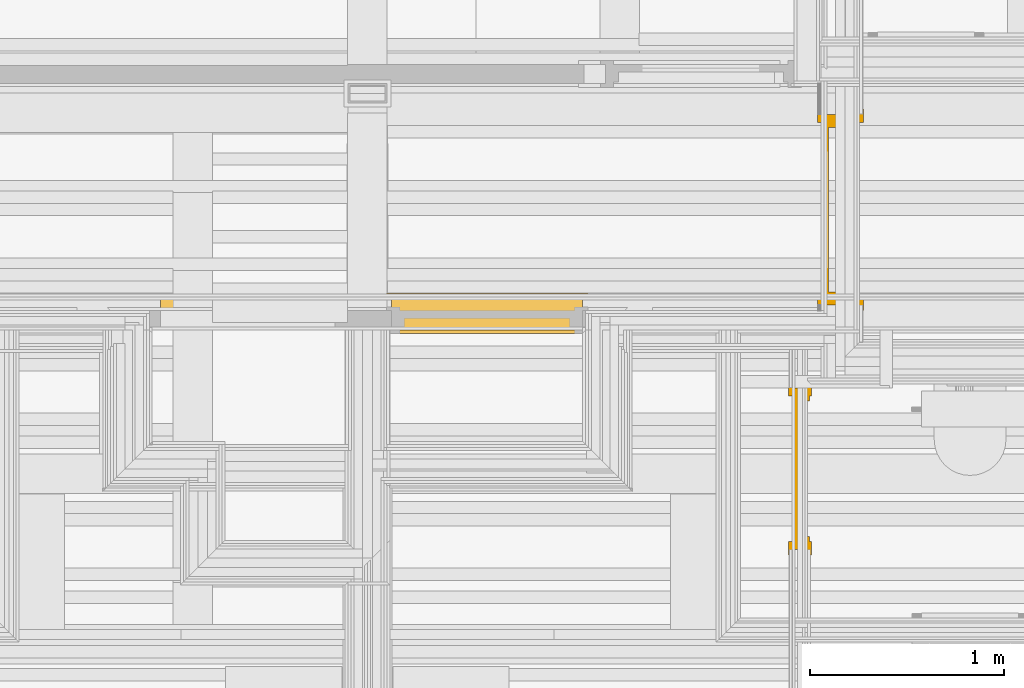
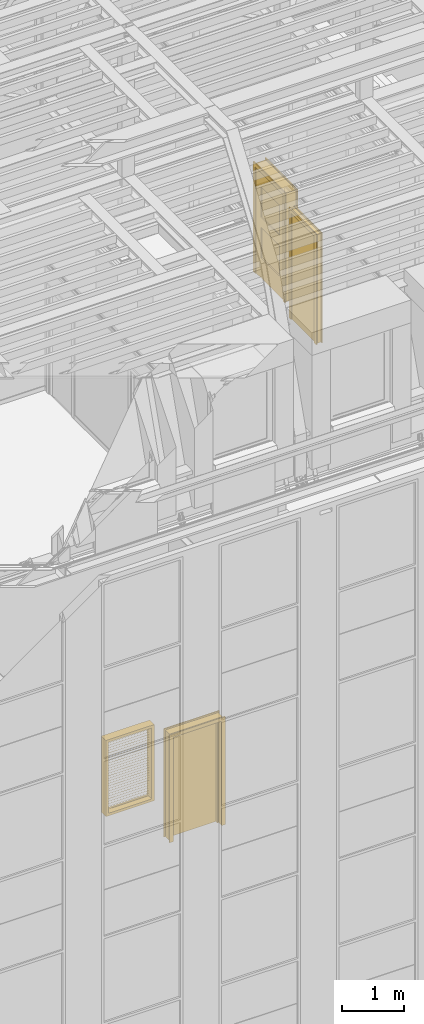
# One storey, part 121 of 183: 3 doors, 1 curtain wall.
"""IFC2X3 building model written with IfcOpenShell, lengths in metres."""

import ifcopenshell
import ifcopenshell.guid

model = None  # the IFC model being written
_history = None  # IfcOwnerHistory: only IFC2X3 demands one
_inside = {}  # id of a spatial element -> (the spatial element, [elements in it])
_under = {}  # id of a project, library or spatial element -> (it, [spatial elements below it])
_declared = {}  # id of a project -> (the project, [libraries it declares])
_typed = {}  # id of a type object -> (the type object, [elements of that type])
_made_of = {}  # id of a material, layer set ... -> (it, [elements and type objects made of it])


def new_model(schema):
    """Start an empty IFC model of exactly this schema.

    Asked for "IFC4X3", IfcOpenShell would pick the latest addendum, in which some entities
    have other attributes; the version numbers below select the first issue.
    IFC2X3 requires an IfcOwnerHistory on every rooted entity: one is made here for all.
    """
    global model, _history
    if schema == "IFC4X3":
        model = ifcopenshell.file(schema_version=(4, 3, 0, 0))
    else:
        model = ifcopenshell.file(schema=schema)
    _inside.clear()
    _under.clear()
    _declared.clear()
    _typed.clear()
    _made_of.clear()
    _history = None
    if model.schema == "IFC2X3":
        org = make("IfcOrganization", Name="unknown")
        user = make(
            "IfcPersonAndOrganization",
            ThePerson=make("IfcPerson", FamilyName="unknown"),
            TheOrganization=org,
        )
        app = make(
            "IfcApplication",
            ApplicationDeveloper=org,
            Version="unknown",
            ApplicationFullName="unknown",
            ApplicationIdentifier="unknown",
        )
        _history = make(
            "IfcOwnerHistory",
            OwningUser=user,
            OwningApplication=app,
            ChangeAction="ADDED",
            CreationDate=0,
        )
    return model


def make(cls, **values):
    """One entity of the class cls with the attributes given. An attribute that is None is left unset."""
    return model.create_entity(
        cls, **{name: value for name, value in values.items() if value is not None}
    )


def entity(cls, *values):
    """Any entity or typed value of the class cls, its attributes in the order of the schema. None: left unset."""
    e = model.create_entity(cls)
    for i, value in enumerate(values):
        if value is not None:
            e[i] = value
    return e


def rooted(cls, **values):
    """An entity with a GlobalId (a new one), such as an element, a storey or a relation."""
    return make(cls, GlobalId=ifcopenshell.guid.new(), OwnerHistory=_history, **values)


def si_unit(unit_type, name, prefix=None):
    """IfcSIUnit, for example si_unit("LENGTHUNIT", "METRE", prefix="MILLI")."""
    return make("IfcSIUnit", UnitType=unit_type, Prefix=prefix, Name=name)


def converted_unit(unit_type, name, factor, base, dimensions=None, offset=None):
    """IfcConversionBasedUnit, such as the inch: factor (a typed value) times the base unit."""
    return make(
        "IfcConversionBasedUnit"
        if offset is None
        else "IfcConversionBasedUnitWithOffset",
        ConversionOffset=offset,
        Dimensions=None
        if dimensions is None
        else entity("IfcDimensionalExponents", *dimensions),
        UnitType=unit_type,
        Name=name,
        ConversionFactor=make(
            "IfcMeasureWithUnit", ValueComponent=factor, UnitComponent=base
        ),
    )


def derived_unit(unit_type, elements):
    """IfcDerivedUnit: a product of units, each with its exponent."""
    return make(
        "IfcDerivedUnit",
        Elements=[
            make("IfcDerivedUnitElement", Unit=unit, Exponent=power)
            for unit, power in elements
        ],
        UnitType=unit_type,
    )


def money_unit(currency):
    """IfcMonetaryUnit."""
    return make("IfcMonetaryUnit", Currency=currency)


def assignment(units):
    """IfcUnitAssignment: the units of a project."""
    return None if units is None else make("IfcUnitAssignment", Units=units)


def point(xyz):
    """IfcCartesianPoint."""
    return None if xyz is None else make("IfcCartesianPoint", Coordinates=xyz)


def direction(xyz):
    """IfcDirection."""
    return None if xyz is None else make("IfcDirection", DirectionRatios=xyz)


def frame(location, z_axis=None, x_axis=None):
    """IfcAxis2Placement3D, a coordinate frame: its origin and axes. An axis left out is left unset."""
    return make(
        "IfcAxis2Placement3D",
        Location=point(location),
        Axis=direction(z_axis),
        RefDirection=direction(x_axis),
    )


def origin_with_axes():
    """The frame at (0, 0, 0) with the z axis (0, 0, 1) and the x axis (1, 0, 0) written out."""
    return frame((0.0, 0.0, 0.0), z_axis=(0.0, 0.0, 1.0), x_axis=(1.0, 0.0, 0.0))


def place(relative_to, where):
    """IfcLocalPlacement: puts the frame where relative to a parent placement (None: the world)."""
    return make(
        "IfcLocalPlacement", PlacementRelTo=relative_to, RelativePlacement=where
    )


def context(
    kind, dimensions, precision=None, world=None, true_north=None, identifier=None
):
    """IfcGeometricRepresentationContext, for example the 3D "Model" context."""
    return make(
        "IfcGeometricRepresentationContext",
        ContextIdentifier=identifier,
        ContextType=kind,
        CoordinateSpaceDimension=dimensions,
        Precision=precision,
        WorldCoordinateSystem=world,
        TrueNorth=true_north,
    )


def subcontext(parent, identifier, kind, view, scale=None):
    """IfcGeometricRepresentationSubContext, for example "Body" below "Model"."""
    return make(
        "IfcGeometricRepresentationSubContext",
        ContextIdentifier=identifier,
        ContextType=kind,
        ParentContext=parent,
        TargetScale=scale,
        TargetView=view,
    )


def project(units=None, contexts=None):
    """IfcProject with its units and contexts."""
    return rooted(
        "IfcProject",
        Name="project",
        RepresentationContexts=contexts,
        UnitsInContext=assignment(units),
    )


def spatial(cls, under=None, at=None, **own):
    """A site, building, storey or space (cls), placed at a placement, below another one or the project."""
    s = rooted(cls, ObjectPlacement=at, **own)
    if under is not None:
        _under.setdefault(under.id(), (under, []))[1].append(s)
    return s


def faces_of(points, faces, orient=None, outer=None):
    """IfcFace entities. A face is a list of loops; a loop is a list of indices into points, from 0.

    orient and outer hold one flag for each loop. By default every Orientation is true, the
    first loop of a face is its IfcFaceOuterBound and the others are IfcFaceBound.
    """
    made = []
    for i, loops in enumerate(faces):
        bounds = []
        for j, loop in enumerate(loops):
            is_outer = j == 0 if outer is None else outer[i][j]
            bounds.append(
                make(
                    "IfcFaceOuterBound" if is_outer else "IfcFaceBound",
                    Bound=make("IfcPolyLoop", Polygon=[points[k] for k in loop]),
                    Orientation=True if orient is None else orient[i][j],
                )
            )
        made.append(make("IfcFace", Bounds=bounds))
    return made


def open_shell(faces, orient=None, outer=None):
    """The faces of one IfcOpenShell. surface_model builds it on its shared points."""
    return ("IfcOpenShell", faces, orient, outer)


def faceted_brep(points, faces, orient=None, outer=None, voids=None):
    """IfcFacetedBrep: a solid bounded by flat faces; with voids (closed shells), ...WithVoids."""
    shared = [point(p) for p in points]
    hull = make("IfcClosedShell", CfsFaces=faces_of(shared, faces, orient, outer))
    if voids is None:
        return make("IfcFacetedBrep", Outer=hull)
    return make(
        "IfcFacetedBrepWithVoids",
        Outer=hull,
        Voids=[
            make(cls, CfsFaces=faces_of(shared, fs, o, b)) for cls, fs, o, b in voids
        ],
    )


def surface_model(cls, points, shells):
    """IfcFaceBasedSurfaceModel or IfcShellBasedSurfaceModel (cls): surfaces that need not close."""
    shared = [point(p) for p in points]
    made = [make(c, CfsFaces=faces_of(shared, fs, o, b)) for c, fs, o, b in shells]
    if cls == "IfcFaceBasedSurfaceModel":
        return make(cls, FbsmFaces=made)
    return make(cls, SbsmBoundary=made)


def shape(context_of_items, identifier, shape_type, items):
    """IfcShapeRepresentation: the items that make up one representation, for example the "Body"."""
    return make(
        "IfcShapeRepresentation",
        ContextOfItems=context_of_items,
        RepresentationIdentifier=identifier,
        RepresentationType=shape_type,
        Items=items,
    )


def material(Name=None, Category=None):
    """IfcMaterial."""
    return make("IfcMaterial", Name=Name, Category=Category)


def made_of(thing, what):
    """Note that an element or type object is made of a material, layer set ...; save() writes the relation."""
    if what is not None:
        _made_of.setdefault(what.id(), (what, []))[1].append(thing)
    return thing


def type_object(cls, material=None, **own):
    """A type object (cls), such as IfcWallType, which elements share."""
    return made_of(rooted(cls, **own), material)


def element(
    cls,
    number,
    at=None,
    inside=None,
    cuts=None,
    type_object=None,
    material=None,
    context=None,
    identifier="Body",
    shape_type=None,
    held_by="IfcProductDefinitionShape",
    body=None,
    shapes=None,
    **own,
):
    """One element of the class cls, such as IfcWall. Its Tag is "e" and its number.

    at: its placement. inside: the storey or other place that contains it. cuts: it is an
    opening in that element (IfcRelVoidsElement). A single representation is given by context,
    identifier, shape_type and body (its items); several are given by shapes. held_by: the class
    of the entity that holds the representations. save() writes the other relations.
    """
    e = rooted(cls, Tag="e%d" % number, ObjectPlacement=at, **own)
    if body is not None:
        shapes = [shape(context, identifier, shape_type, body)]
    if shapes is not None:
        e.Representation = make(held_by, Representations=shapes)
    if inside is not None:
        _inside.setdefault(inside.id(), (inside, []))[1].append(e)
    if cuts is not None:
        rooted(
            "IfcRelVoidsElement", RelatingBuildingElement=cuts, RelatedOpeningElement=e
        )
    if type_object is not None:
        _typed.setdefault(type_object.id(), (type_object, []))[1].append(e)
    return made_of(e, material)


def aggregate(whole, parts):
    """IfcRelAggregates: a whole, such as a stair, and the parts it consists of."""
    return rooted("IfcRelAggregates", RelatingObject=whole, RelatedObjects=parts)


def save(model, path):
    """Write the relations noted so far, then the file.

    IfcRelAggregates (storeys below a building ...), IfcRelContainedInSpatialStructure (elements
    in a storey), IfcRelDefinesByType, IfcRelAssociatesMaterial and IfcRelDeclares: one each for
    every whole, place, type object, material and project.
    """
    for whole, parts in _under.values():
        aggregate(whole, parts)
    for where, things in _inside.values():
        rooted(
            "IfcRelContainedInSpatialStructure",
            RelatedElements=things,
            RelatingStructure=where,
        )
    for kind, things in _typed.values():
        rooted("IfcRelDefinesByType", RelatedObjects=things, RelatingType=kind)
    for what, things in _made_of.values():
        rooted("IfcRelAssociatesMaterial", RelatedObjects=things, RelatingMaterial=what)
    for by, libraries in _declared.values():
        rooted("IfcRelDeclares", RelatingContext=by, RelatedDefinitions=libraries)
    model.write(path)


model = new_model("IFC2X3")

# Units and contexts
model_context = context("Model", 3, precision=1e-05, world=origin_with_axes(), true_north=direction((0.0, 1.0)))
body_context = subcontext(model_context, "Body", "Model", "MODEL_VIEW", scale=1.0)
ifc_project = project(units=[si_unit("LENGTHUNIT", "METRE"), si_unit("AREAUNIT", "SQUARE_METRE"), si_unit("VOLUMEUNIT", "CUBIC_METRE"), si_unit("ABSORBEDDOSEUNIT", "GRAY"), si_unit("AMOUNTOFSUBSTANCEUNIT", "MOLE"), si_unit("DOSEEQUIVALENTUNIT", "SIEVERT"), si_unit("ELECTRICCAPACITANCEUNIT", "FARAD"), si_unit("ELECTRICCHARGEUNIT", "COULOMB"), si_unit("ELECTRICCONDUCTANCEUNIT", "SIEMENS"), si_unit("ELECTRICCURRENTUNIT", "AMPERE"), si_unit("ELECTRICRESISTANCEUNIT", "OHM"), si_unit("ELECTRICVOLTAGEUNIT", "VOLT"), si_unit("ENERGYUNIT", "JOULE"), si_unit("FORCEUNIT", "NEWTON"), si_unit("FREQUENCYUNIT", "HERTZ"), si_unit("ILLUMINANCEUNIT", "LUX"), si_unit("INDUCTANCEUNIT", "HENRY"), si_unit("LUMINOUSFLUXUNIT", "LUMEN"), si_unit("LUMINOUSINTENSITYUNIT", "CANDELA"), si_unit("MAGNETICFLUXDENSITYUNIT", "TESLA"), si_unit("MAGNETICFLUXUNIT", "WEBER"), si_unit("MASSUNIT", "GRAM"), converted_unit("PLANEANGLEUNIT", "degree", entity("IfcReal", 0.0174532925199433), si_unit("PLANEANGLEUNIT", "RADIAN"), dimensions=[0, 0, 0, 0, 0, 0, 0]), si_unit("POWERUNIT", "WATT"), si_unit("PRESSUREUNIT", "PASCAL"), si_unit("RADIOACTIVITYUNIT", "BECQUEREL"), si_unit("SOLIDANGLEUNIT", "STERADIAN"), si_unit("THERMODYNAMICTEMPERATUREUNIT", "KELVIN"), si_unit("TIMEUNIT", "SECOND"), derived_unit("ACCELERATIONUNIT", [(si_unit("LENGTHUNIT", "METRE"), 1), (si_unit("TIMEUNIT", "SECOND"), -2)]), derived_unit("ANGULARVELOCITYUNIT", [(converted_unit("PLANEANGLEUNIT", "degree", entity("IfcReal", 0.0174532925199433), si_unit("PLANEANGLEUNIT", "RADIAN"), dimensions=[0, 0, 0, 0, 0, 0, 0]), 1), (si_unit("TIMEUNIT", "SECOND"), -1)]), derived_unit("CURVATUREUNIT", [(converted_unit("PLANEANGLEUNIT", "degree", entity("IfcReal", 0.0174532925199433), si_unit("PLANEANGLEUNIT", "RADIAN"), dimensions=[0, 0, 0, 0, 0, 0, 0]), 1), (si_unit("LENGTHUNIT", "METRE"), -1)]), derived_unit("DYNAMICVISCOSITYUNIT", [(si_unit("PRESSUREUNIT", "PASCAL"), 1), (si_unit("TIMEUNIT", "SECOND"), 1)]), derived_unit("HEATFLUXDENSITYUNIT", [(si_unit("POWERUNIT", "WATT"), 1), (si_unit("LENGTHUNIT", "METRE"), -2)]), derived_unit("HEATINGVALUEUNIT", [(si_unit("ENERGYUNIT", "JOULE"), 1), (si_unit("MASSUNIT", "GRAM"), -1)]), derived_unit("INTEGERCOUNTRATEUNIT", [(si_unit("TIMEUNIT", "SECOND"), -1)]), derived_unit("IONCONCENTRATIONUNIT", [(si_unit("MASSUNIT", "GRAM"), 1), (si_unit("VOLUMEUNIT", "CUBIC_METRE"), -1)]), derived_unit("ISOTHERMALMOISTURECAPACITYUNIT", [(si_unit("VOLUMEUNIT", "CUBIC_METRE"), 1), (si_unit("MASSUNIT", "GRAM"), -1)]), derived_unit("KINEMATICVISCOSITYUNIT", [(si_unit("AREAUNIT", "SQUARE_METRE"), 1), (si_unit("TIMEUNIT", "SECOND"), -1)]), derived_unit("LINEARFORCEUNIT", [(si_unit("FORCEUNIT", "NEWTON"), 1), (si_unit("LENGTHUNIT", "METRE"), -1)]), derived_unit("LINEARMOMENTUNIT", [(si_unit("FORCEUNIT", "NEWTON"), 1), (si_unit("LENGTHUNIT", "METRE"), -1)]), derived_unit("LINEARSTIFFNESSUNIT", [(si_unit("FORCEUNIT", "NEWTON"), 1), (si_unit("LENGTHUNIT", "METRE"), -1)]), derived_unit("LINEARVELOCITYUNIT", [(si_unit("LENGTHUNIT", "METRE"), 1), (si_unit("TIMEUNIT", "SECOND"), -1)]), derived_unit("LUMINOUSINTENSITYDISTRIBUTIONUNIT", [(si_unit("LUMINOUSINTENSITYUNIT", "CANDELA"), 1), (si_unit("LUMINOUSFLUXUNIT", "LUMEN"), -1)]), derived_unit("MASSDENSITYUNIT", [(si_unit("MASSUNIT", "GRAM"), 1), (si_unit("VOLUMEUNIT", "CUBIC_METRE"), -1)]), derived_unit("MASSFLOWRATEUNIT", [(si_unit("MASSUNIT", "GRAM"), 1), (si_unit("TIMEUNIT", "SECOND"), -1)]), derived_unit("MASSPERLENGTHUNIT", [(si_unit("MASSUNIT", "GRAM"), 1), (si_unit("LENGTHUNIT", "METRE"), -1)]), derived_unit("MODULUSOFELASTICITYUNIT", [(si_unit("FORCEUNIT", "NEWTON"), 1), (si_unit("AREAUNIT", "SQUARE_METRE"), -1)]), derived_unit("MODULUSOFLINEARSUBGRADEREACTIONUNIT", [(si_unit("FORCEUNIT", "NEWTON"), 1), (si_unit("LENGTHUNIT", "METRE"), -2)]), derived_unit("MODULUSOFROTATIONALSUBGRADEREACTIONUNIT", [(si_unit("FORCEUNIT", "NEWTON"), 1), (si_unit("LENGTHUNIT", "METRE"), 1)]), derived_unit("MODULUSOFSUBGRADEREACTIONUNIT", [(si_unit("FORCEUNIT", "NEWTON"), 1), (si_unit("VOLUMEUNIT", "CUBIC_METRE"), -1)]), derived_unit("MOISTUREDIFFUSIVITYUNIT", [(si_unit("VOLUMEUNIT", "CUBIC_METRE"), 1), (si_unit("TIMEUNIT", "SECOND"), -1)]), derived_unit("MOLECULARWEIGHTUNIT", [(si_unit("MASSUNIT", "GRAM"), 1), (si_unit("AMOUNTOFSUBSTANCEUNIT", "MOLE"), -1)]), derived_unit("PLANARFORCEUNIT", [(si_unit("FORCEUNIT", "NEWTON"), 1), (si_unit("LENGTHUNIT", "METRE"), -2)]), derived_unit("ROTATIONALFREQUENCYUNIT", [(si_unit("TIMEUNIT", "SECOND"), -1)]), derived_unit("ROTATIONALMASSUNIT", [(si_unit("MASSUNIT", "GRAM"), 1), (si_unit("LENGTHUNIT", "METRE"), 2)]), derived_unit("ROTATIONALSTIFFNESSUNIT", [(si_unit("FORCEUNIT", "NEWTON"), 1), (si_unit("LENGTHUNIT", "METRE"), 1), (converted_unit("PLANEANGLEUNIT", "degree", entity("IfcReal", 0.0174532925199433), si_unit("PLANEANGLEUNIT", "RADIAN"), dimensions=[0, 0, 0, 0, 0, 0, 0]), -1)]), derived_unit("SECTIONAREAINTEGRALUNIT", [(si_unit("LENGTHUNIT", "METRE"), 5)]), derived_unit("SECTIONMODULUSUNIT", [(si_unit("LENGTHUNIT", "METRE"), 3)]), derived_unit("SHEARMODULUSUNIT", [(si_unit("FORCEUNIT", "NEWTON"), 1), (si_unit("AREAUNIT", "SQUARE_METRE"), -1)]), derived_unit("SOUNDPOWERUNIT", [(si_unit("ENERGYUNIT", "JOULE"), 1), (si_unit("TIMEUNIT", "SECOND"), -1)]), derived_unit("SPECIFICHEATCAPACITYUNIT", [(si_unit("FORCEUNIT", "NEWTON"), 1), (si_unit("MASSUNIT", "GRAM"), -1), (si_unit("THERMODYNAMICTEMPERATUREUNIT", "KELVIN"), -1)]), derived_unit("TEMPERATUREGRADIENTUNIT", [(si_unit("THERMODYNAMICTEMPERATUREUNIT", "KELVIN"), 1), (si_unit("LENGTHUNIT", "METRE"), -1)]), derived_unit("THERMALADMITTANCEUNIT", [(si_unit("POWERUNIT", "WATT"), 1), (si_unit("AREAUNIT", "SQUARE_METRE"), -1), (si_unit("THERMODYNAMICTEMPERATUREUNIT", "KELVIN"), -1)]), derived_unit("THERMALCONDUCTANCEUNIT", [(si_unit("POWERUNIT", "WATT"), 1), (si_unit("LENGTHUNIT", "METRE"), -1), (si_unit("THERMODYNAMICTEMPERATUREUNIT", "KELVIN"), -1)]), derived_unit("THERMALEXPANSIONCOEFFICIENTUNIT", [(si_unit("THERMODYNAMICTEMPERATUREUNIT", "KELVIN"), -1)]), derived_unit("THERMALRESISTANCEUNIT", [(si_unit("AREAUNIT", "SQUARE_METRE"), 1), (si_unit("POWERUNIT", "WATT"), -1)]), derived_unit("THERMALTRANSMITTANCEUNIT", [(si_unit("POWERUNIT", "WATT"), 1), (si_unit("AREAUNIT", "SQUARE_METRE"), -1), (si_unit("THERMODYNAMICTEMPERATUREUNIT", "KELVIN"), -1)]), derived_unit("TORQUEUNIT", [(si_unit("FORCEUNIT", "NEWTON"), 1), (si_unit("LENGTHUNIT", "METRE"), 1)]), derived_unit("VAPORPERMEABILITYUNIT", [(si_unit("MASSUNIT", "GRAM"), 1), (si_unit("TIMEUNIT", "SECOND"), -1)]), derived_unit("VOLUMETRICFLOWRATEUNIT", [(si_unit("VOLUMEUNIT", "CUBIC_METRE"), 1), (si_unit("TIMEUNIT", "SECOND"), -1)]), derived_unit("WARPINGCONSTANTUNIT", [(si_unit("LENGTHUNIT", "METRE"), 6)]), derived_unit("WARPINGMOMENTUNIT", [(si_unit("FORCEUNIT", "NEWTON"), 1), (si_unit("LENGTHUNIT", "METRE"), 2)]), money_unit("GBP")], contexts=[model_context])

# Site, building, storey
site_placement = place(None, origin_with_axes())
site = spatial("IfcSite", under=ifc_project, at=site_placement, Name="Site", CompositionType="ELEMENT")
building_placement = place(site_placement, origin_with_axes())
building = spatial("IfcBuilding", under=site, at=building_placement, Name="Building01", CompositionType="ELEMENT")
storey_placement = place(building_placement, frame((0.0, 0.0, 5.15), z_axis=(0.0, 0.0, 1.0), x_axis=(1.0, 0.0, 0.0)))
storey = spatial("IfcBuildingStorey", under=building, at=storey_placement, Name="1F", CompositionType="ELEMENT", Elevation=5.15)

# Curtain wall
ifc_material_1 = material(Name="A-CurtainWall_Frame")
curtain_wall_type = type_object("IfcCurtainWallType", Name="Generic - Maximum Spacing", PredefinedType="NOTDEFINED")
curtain_wall_placement = place(storey_placement, frame((0.0, 0.0, -5.15), z_axis=(0.0, 0.0, 1.0), x_axis=(1.0, 0.0, 0.0)))
element("IfcCurtainWall", 1, at=curtain_wall_placement, inside=storey, type_object=curtain_wall_type, material=ifc_material_1, Name="Generic - Maximum Spacing", ObjectType="Generic - Maximum Spacing", context=body_context, shape_type="SurfaceModel", body=[
    surface_model("IfcShellBasedSurfaceModel", [(12.483, 5.12953, 6.083684), (12.483, 5.131392, 6.086216), (12.483, 5.09047, 6.116316), (12.483, 5.088608, 6.113784), (13.283, 5.12953, 6.083684), (13.283, 5.088608, 6.113784), (13.283, 5.09047, 6.116316), (13.283, 5.131392, 6.086216), (12.483, 5.131392, 6.136216), (12.483, 5.09047, 6.166316), (12.483, 5.088608, 6.163784), (12.483, 5.12953, 6.133684), (13.283, 5.12953, 6.133684), (13.283, 5.088608, 6.163784), (13.283, 5.09047, 6.166316), (13.283, 5.131392, 6.136216), (12.483, 5.131392, 6.186216), (12.483, 5.09047, 6.216316), (12.483, 5.088608, 6.213784), (12.483, 5.12953, 6.183684), (13.283, 5.12953, 6.183684), (13.283, 5.088608, 6.213784), (13.283, 5.09047, 6.216316), (13.283, 5.131392, 6.186216), (12.483, 5.131392, 6.236216), (12.483, 5.09047, 6.266316), (12.483, 5.088608, 6.263784), (12.483, 5.12953, 6.233684), (13.283, 5.12953, 6.233684), (13.283, 5.088608, 6.263784), (13.283, 5.09047, 6.266316), (13.283, 5.131392, 6.236216), (12.483, 5.131392, 6.286216), (12.483, 5.09047, 6.316316), (12.483, 5.088608, 6.313784), (12.483, 5.12953, 6.283684), (13.283, 5.12953, 6.283684), (13.283, 5.088608, 6.313784), (13.283, 5.09047, 6.316316), (13.283, 5.131392, 6.286216), (12.483, 5.131392, 6.336216), (12.483, 5.09047, 6.366316), (12.483, 5.088608, 6.363784), (12.483, 5.12953, 6.333684), (13.283, 5.12953, 6.333684), (13.283, 5.088608, 6.363784), (13.283, 5.09047, 6.366316), (13.283, 5.131392, 6.336216), (12.483, 5.131392, 6.386216), (12.483, 5.09047, 6.416316), (12.483, 5.088608, 6.413784), (12.483, 5.12953, 6.383684), (13.283, 5.12953, 6.383684), (13.283, 5.088608, 6.413784), (13.283, 5.09047, 6.416316), (13.283, 5.131392, 6.386216), (12.483, 5.131392, 6.436216), (12.483, 5.09047, 6.466316), (12.483, 5.088608, 6.463784), (12.483, 5.12953, 6.433684), (13.283, 5.12953, 6.433684), (13.283, 5.088608, 6.463784), (13.283, 5.09047, 6.466316), (13.283, 5.131392, 6.436216), (12.483, 5.131392, 6.486216), (12.483, 5.09047, 6.516316), (12.483, 5.088608, 6.513784), (12.483, 5.12953, 6.483684), (13.283, 5.12953, 6.483684), (13.283, 5.088608, 6.513784), (13.283, 5.09047, 6.516316), (13.283, 5.131392, 6.486216), (12.483, 5.131392, 6.536216), (12.483, 5.09047, 6.566316), (12.483, 5.088608, 6.563784), (12.483, 5.12953, 6.533684), (13.283, 5.12953, 6.533684), (13.283, 5.088608, 6.563784), (13.283, 5.09047, 6.566316), (13.283, 5.131392, 6.536216), (12.483, 5.131392, 6.586216), (12.483, 5.09047, 6.616316), (12.483, 5.088608, 6.613784), (12.483, 5.12953, 6.583684), (13.283, 5.12953, 6.583684), (13.283, 5.088608, 6.613784), (13.283, 5.09047, 6.616316), (13.283, 5.131392, 6.586216), (12.483, 5.131392, 6.636216), (12.483, 5.09047, 6.666316), (12.483, 5.088608, 6.663784), (12.483, 5.12953, 6.633684), (13.283, 5.12953, 6.633684), (13.283, 5.088608, 6.663784), (13.283, 5.09047, 6.666316), (13.283, 5.131392, 6.636216), (12.483, 5.131392, 6.686216), (12.483, 5.09047, 6.716316), (12.483, 5.088608, 6.713784), (12.483, 5.12953, 6.683684), (13.283, 5.12953, 6.683684), (13.283, 5.088608, 6.713784), (13.283, 5.09047, 6.716316), (13.283, 5.131392, 6.686216), (12.483, 5.131392, 6.736216), (12.483, 5.09047, 6.766316), (12.483, 5.088608, 6.763784), (12.483, 5.12953, 6.733684), (13.283, 5.12953, 6.733684), (13.283, 5.088608, 6.763784), (13.283, 5.09047, 6.766316), (13.283, 5.131392, 6.736216), (12.483, 5.131392, 6.786216), (12.483, 5.09047, 6.816316), (12.483, 5.088608, 6.813784), (12.483, 5.12953, 6.783684), (13.283, 5.12953, 6.783684), (13.283, 5.088608, 6.813784), (13.283, 5.09047, 6.816316), (13.283, 5.131392, 6.786216), (12.483, 5.131392, 6.836216), (12.483, 5.09047, 6.866316), (12.483, 5.088608, 6.863784), (12.483, 5.12953, 6.833684), (13.283, 5.12953, 6.833684), (13.283, 5.088608, 6.863784), (13.283, 5.09047, 6.866316), (13.283, 5.131392, 6.836216), (12.483, 5.131392, 6.886216), (12.483, 5.09047, 6.916316), (12.483, 5.088608, 6.913784), (12.483, 5.12953, 6.883684), (13.283, 5.12953, 6.883684), (13.283, 5.088608, 6.913784), (13.283, 5.09047, 6.916316), (13.283, 5.131392, 6.886216), (12.483, 5.131392, 6.936216), (12.483, 5.09047, 6.966316), (12.483, 5.088608, 6.963784), (12.483, 5.12953, 6.933684), (13.283, 5.12953, 6.933684), (13.283, 5.088608, 6.963784), (13.283, 5.09047, 6.966316), (13.283, 5.131392, 6.936216), (12.483, 5.131392, 6.986216), (12.483, 5.09047, 7.016316), (12.483, 5.088608, 7.013784), (12.483, 5.12953, 6.983684), (13.283, 5.12953, 6.983684), (13.283, 5.088608, 7.013784), (13.283, 5.09047, 7.016316), (13.283, 5.131392, 6.986216), (12.483, 5.131392, 7.036216), (12.483, 5.09047, 7.066316), (12.483, 5.088608, 7.063784), (12.483, 5.12953, 7.033684), (13.283, 5.12953, 7.033684), (13.283, 5.088608, 7.063784), (13.283, 5.09047, 7.066316), (13.283, 5.131392, 7.036216), (12.483, 5.131392, 7.086216), (12.483, 5.09047, 7.116316), (12.483, 5.088608, 7.113784), (12.483, 5.12953, 7.083684), (13.283, 5.12953, 7.083684), (13.283, 5.088608, 7.113784), (13.283, 5.09047, 7.116316), (13.283, 5.131392, 7.086216), (12.483, 5.131392, 7.136216), (12.483, 5.09047, 7.166316), (12.483, 5.088608, 7.163784), (12.483, 5.12953, 7.133684), (13.283, 5.12953, 7.133684), (13.283, 5.088608, 7.163784), (13.283, 5.09047, 7.166316), (13.283, 5.131392, 7.136216), (12.483, 5.131392, 7.186216), (12.483, 5.09047, 7.216316), (12.483, 5.088608, 7.213784), (12.483, 5.12953, 7.183684), (13.283, 5.12953, 7.183684), (13.283, 5.088608, 7.213784), (13.283, 5.09047, 7.216316), (13.283, 5.131392, 7.186216), (12.483, 5.131392, 7.236216), (12.483, 5.09047, 7.266316), (12.483, 5.088608, 7.263784), (12.483, 5.12953, 7.233684), (13.283, 5.12953, 7.233684), (13.283, 5.088608, 7.263784), (13.283, 5.09047, 7.266316), (13.283, 5.131392, 7.236216), (12.483, 5.131392, 7.286216), (12.483, 5.09047, 7.316316), (12.483, 5.088608, 7.313784), (12.483, 5.12953, 7.283684), (13.283, 5.12953, 7.283684), (13.283, 5.088608, 7.313784), (13.283, 5.09047, 7.316316), (13.283, 5.131392, 7.286216), (12.483, 5.131392, 7.336216), (12.483, 5.09047, 7.366316), (12.483, 5.088608, 7.363784), (12.483, 5.12953, 7.333684), (13.283, 5.12953, 7.333684), (13.283, 5.088608, 7.363784), (13.283, 5.09047, 7.366316), (13.283, 5.131392, 7.336216), (12.483, 5.131392, 7.386216), (12.483, 5.09047, 7.416316), (12.483, 5.088608, 7.413784), (12.483, 5.12953, 7.383684), (13.283, 5.12953, 7.383684), (13.283, 5.088608, 7.413784), (13.283, 5.09047, 7.416316), (13.283, 5.131392, 7.386216), (12.483, 5.131392, 7.436216), (12.483, 5.09047, 7.466316), (12.483, 5.088608, 7.463784), (12.483, 5.12953, 7.433684), (13.283, 5.12953, 7.433684), (13.283, 5.088608, 7.463784), (13.283, 5.09047, 7.466316), (13.283, 5.131392, 7.436216), (13.283, 5.15, 6.1), (13.283, 5.0, 6.1), (13.283, 5.0, 6.05), (13.283, 5.15, 6.05), (12.483, 5.15, 6.05), (12.483, 5.15, 6.1), (12.483, 5.0, 6.1), (12.483, 5.0, 6.05), (13.333, 5.0, 7.55), (13.333, 5.15, 7.55), (13.283, 5.15, 7.55), (13.283, 5.0, 7.55), (13.333, 5.0, 6.05), (13.333, 5.15, 6.05), (12.483, 5.0, 7.55), (12.483, 5.15, 7.55), (12.483, 5.15, 7.5), (12.483, 5.0, 7.5), (13.283, 5.0, 7.5), (13.283, 5.15, 7.5), (12.433, 5.0, 6.05), (12.433, 5.15, 6.05), (12.433, 5.0, 7.55), (12.433, 5.15, 7.55)], [open_shell([[[0, 1, 2, 3]], [[1, 2, 3, 0]], [[4, 5, 6, 7]], [[1, 0, 4, 7]], [[2, 1, 7, 6]], [[3, 2, 6, 5]], [[4, 0, 3, 5]], [[8, 9, 10, 11]], [[12, 13, 14, 15]], [[8, 11, 12, 15]], [[9, 8, 15, 14]], [[10, 9, 14, 13]], [[12, 11, 10, 13]], [[16, 17, 18, 19]], [[20, 21, 22, 23]], [[16, 19, 20, 23]], [[17, 16, 23, 22]], [[18, 17, 22, 21]], [[20, 19, 18, 21]], [[24, 25, 26, 27]], [[28, 29, 30, 31]], [[24, 27, 28, 31]], [[25, 24, 31, 30]], [[26, 25, 30, 29]], [[28, 27, 26, 29]], [[32, 33, 34, 35]], [[36, 37, 38, 39]], [[32, 35, 36, 39]], [[33, 32, 39, 38]], [[34, 33, 38, 37]], [[36, 35, 34, 37]], [[40, 41, 42, 43]], [[44, 45, 46, 47]], [[40, 43, 44, 47]], [[41, 40, 47, 46]], [[42, 41, 46, 45]], [[44, 43, 42, 45]], [[48, 49, 50, 51]], [[52, 53, 54, 55]], [[48, 51, 52, 55]], [[49, 48, 55, 54]], [[50, 49, 54, 53]], [[52, 51, 50, 53]], [[56, 57, 58, 59]], [[60, 61, 62, 63]], [[56, 59, 60, 63]], [[57, 56, 63, 62]], [[58, 57, 62, 61]], [[60, 59, 58, 61]], [[64, 65, 66, 67]], [[68, 69, 70, 71]], [[64, 67, 68, 71]], [[65, 64, 71, 70]], [[66, 65, 70, 69]], [[68, 67, 66, 69]], [[72, 73, 74, 75]], [[76, 77, 78, 79]], [[72, 75, 76, 79]], [[73, 72, 79, 78]], [[74, 73, 78, 77]], [[76, 75, 74, 77]], [[80, 81, 82, 83]], [[84, 85, 86, 87]], [[80, 83, 84, 87]], [[81, 80, 87, 86]], [[82, 81, 86, 85]], [[84, 83, 82, 85]], [[88, 89, 90, 91]], [[92, 93, 94, 95]], [[88, 91, 92, 95]], [[89, 88, 95, 94]], [[90, 89, 94, 93]], [[92, 91, 90, 93]], [[96, 97, 98, 99]], [[100, 101, 102, 103]], [[96, 99, 100, 103]], [[97, 96, 103, 102]], [[98, 97, 102, 101]], [[100, 99, 98, 101]], [[104, 105, 106, 107]], [[108, 109, 110, 111]], [[104, 107, 108, 111]], [[105, 104, 111, 110]], [[106, 105, 110, 109]], [[108, 107, 106, 109]], [[112, 113, 114, 115]], [[116, 117, 118, 119]], [[112, 115, 116, 119]], [[113, 112, 119, 118]], [[114, 113, 118, 117]], [[116, 115, 114, 117]], [[120, 121, 122, 123]], [[124, 125, 126, 127]], [[120, 123, 124, 127]], [[121, 120, 127, 126]], [[122, 121, 126, 125]], [[124, 123, 122, 125]], [[128, 129, 130, 131]], [[132, 133, 134, 135]], [[128, 131, 132, 135]], [[129, 128, 135, 134]], [[130, 129, 134, 133]], [[132, 131, 130, 133]], [[136, 137, 138, 139]], [[140, 141, 142, 143]], [[136, 139, 140, 143]], [[137, 136, 143, 142]], [[138, 137, 142, 141]], [[140, 139, 138, 141]], [[144, 145, 146, 147]], [[148, 149, 150, 151]], [[144, 147, 148, 151]], [[145, 144, 151, 150]], [[146, 145, 150, 149]], [[148, 147, 146, 149]], [[152, 153, 154, 155]], [[156, 157, 158, 159]], [[152, 155, 156, 159]], [[153, 152, 159, 158]], [[154, 153, 158, 157]], [[156, 155, 154, 157]], [[160, 161, 162, 163]], [[164, 165, 166, 167]], [[160, 163, 164, 167]], [[161, 160, 167, 166]], [[162, 161, 166, 165]], [[164, 163, 162, 165]], [[168, 169, 170, 171]], [[172, 173, 174, 175]], [[168, 171, 172, 175]], [[169, 168, 175, 174]], [[170, 169, 174, 173]], [[172, 171, 170, 173]], [[176, 177, 178, 179]], [[180, 181, 182, 183]], [[176, 179, 180, 183]], [[177, 176, 183, 182]], [[178, 177, 182, 181]], [[180, 179, 178, 181]], [[184, 185, 186, 187]], [[188, 189, 190, 191]], [[184, 187, 188, 191]], [[185, 184, 191, 190]], [[186, 185, 190, 189]], [[188, 187, 186, 189]], [[192, 193, 194, 195]], [[196, 197, 198, 199]], [[192, 195, 196, 199]], [[193, 192, 199, 198]], [[194, 193, 198, 197]], [[196, 195, 194, 197]], [[200, 201, 202, 203]], [[204, 205, 206, 207]], [[200, 203, 204, 207]], [[201, 200, 207, 206]], [[202, 201, 206, 205]], [[204, 203, 202, 205]], [[208, 209, 210, 211]], [[212, 213, 214, 215]], [[208, 211, 212, 215]], [[209, 208, 215, 214]], [[210, 209, 214, 213]], [[212, 211, 210, 213]], [[216, 217, 218, 219]], [[220, 221, 222, 223]], [[216, 219, 220, 223]], [[217, 216, 223, 222]], [[218, 217, 222, 221]], [[220, 219, 218, 221]], [[224, 225, 226, 227]], [[227, 228, 229, 224]], [[224, 229, 230, 225]], [[225, 230, 231, 226]], [[226, 231, 228, 227]], [[231, 230, 229, 228]], [[232, 233, 234, 235]], [[235, 226, 236, 232]], [[234, 227, 226, 235]], [[233, 237, 227, 234]], [[232, 236, 237, 233]], [[226, 227, 237, 236]], [[238, 239, 240, 241]], [[241, 242, 235, 238]], [[238, 235, 234, 239]], [[239, 234, 243, 240]], [[240, 243, 242, 241]], [[243, 234, 235, 242]], [[244, 245, 228, 231]], [[231, 238, 246, 244]], [[228, 239, 238, 231]], [[245, 247, 239, 228]], [[244, 246, 247, 245]], [[238, 239, 247, 246]]])]),
])

# Space
space_1_placement = place(storey_placement, frame((17.73844, 7.349915, 9.81), z_axis=(0.0, 0.0, 1.0), x_axis=(0.0, -1.0, 0.0)))
space_1 = spatial("IfcSpace", under=storey, at=space_1_placement, Name="24", CompositionType="ELEMENT", InteriorOrExteriorSpace="NOTDEFINED")

# Door
ifc_material_2 = material(Name="A_BSUK_Doors")
door_style_1 = type_object("IfcDoorStyle", Name="A-Doors-SingleFlush", ConstructionType="USERDEFINED", OperationType="SINGLE_SWING_RIGHT", ParameterTakesPrecedence=False, Sizeable=False)
door_1_placement = place(storey_placement, frame((15.69, 3.889761, 9.78), z_axis=(0.0, 0.0, 1.0), x_axis=(0.0, 1.0, 0.0)))
element("IfcDoor", 2, at=door_1_placement, inside=space_1, type_object=door_style_1, material=ifc_material_2, Name="4.11", ObjectType="A-Doors-SingleFlush", OverallHeight=2.16900000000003, OverallWidth=0.888000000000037, context=body_context, shape_type="Brep", body=[
    faceted_brep([(0.75, -0.099, 0.0), (0.819, -0.099, 0.0), (0.819, -0.099, 2.169), (-0.069, -0.099, 2.169), (-0.069, -0.099, 0.0), (0.0, -0.099, 0.0), (0.0, -0.099, 2.1), (0.75, -0.099, 2.1), (-0.069, -0.08, 0.0), (-0.069, -0.08, 2.169), (0.819, -0.08, 2.169), (0.819, -0.08, 0.0), (0.75, 0.019, 0.0), (0.819, 0.019, 0.0), (0.819, 0.0, 0.0), (0.792, 0.0, 0.0), (0.792, -0.08, 0.0), (0.75, 0.019, 2.1), (0.0, 0.019, 2.1), (0.0, 0.019, 0.0), (-0.069, 0.019, 0.0), (-0.069, 0.019, 2.169), (0.819, 0.019, 2.169), (0.819, 0.0, 2.169), (0.792, -0.08, 2.142), (0.792, 0.0, 2.142), (-0.042, -0.08, 2.142), (-0.042, 0.0, 2.142), (-0.042, -0.08, 0.0), (-0.042, 0.0, 0.0), (-0.069, 0.0, 2.169), (-0.069, 0.0, 0.0)], [[[0, 1, 2, 3, 4, 5, 6, 7]], [[8, 4, 3, 9]], [[10, 2, 1, 11]], [[9, 3, 2, 10]], [[12, 13, 14, 15, 16, 11, 1, 0]], [[7, 17, 12, 0]], [[6, 18, 17, 7]], [[18, 19, 20, 21, 22, 13, 12, 17]], [[5, 19, 18, 6]], [[13, 22, 23, 14]], [[24, 16, 15, 25]], [[26, 24, 25, 27]], [[11, 16, 24, 26, 28, 8, 9, 10]], [[27, 29, 28, 26]], [[25, 15, 14, 23, 30, 31, 29, 27]], [[5, 4, 8, 28, 29, 31, 20, 19]], [[30, 21, 20, 31]], [[23, 22, 21, 30]]]),
    faceted_brep([(0.0, -0.09, 2.1), (0.0, -0.04, 2.1), (0.0, -0.04, 0.0), (0.0, -0.09, 0.0), (0.725, -0.09, 0.0), (0.75, -0.09, 0.0), (0.75, -0.09, 2.1), (0.025, -0.09, 0.0), (0.025, -0.09, 2.075), (0.725, -0.09, 2.075), (0.725, -0.04, 0.0), (0.75, -0.04, 0.0), (0.75, -0.04, 2.1), (0.025, -0.04, 2.075), (0.025, -0.04, 0.0), (0.725, -0.04, 2.075)], [[[0, 1, 2, 3]], [[4, 5, 6, 0, 3, 7, 8, 9]], [[10, 11, 5, 4]], [[6, 12, 1, 0]], [[5, 11, 12, 6]], [[13, 14, 2, 1, 12, 11, 10, 15]], [[7, 14, 13, 8]], [[7, 3, 2, 14]], [[9, 15, 10, 4]], [[8, 13, 15, 9]]]),
    faceted_brep([(0.75, -0.04, 0.0), (0.75, 0.0, 0.0), (0.75, 0.0, 2.1), (0.75, -0.04, 2.1), (0.0, -0.04, 2.1), (0.0, 0.0, 2.1), (0.0, 0.0, 0.0), (0.0, -0.04, 0.0)], [[[0, 1, 2, 3]], [[4, 5, 6, 7]], [[7, 6, 1, 0]], [[3, 4, 7, 0]], [[3, 2, 5, 4]], [[1, 6, 5, 2]]]),
])

# Space
space_2_placement = place(storey_placement, frame((9.225, 6.85, 0.017932), z_axis=(0.0, 0.0, 1.0), x_axis=(0.0, -1.0, 0.0)))
space_2 = spatial("IfcSpace", under=storey, at=space_2_placement, Name="hall (vented)", CompositionType="ELEMENT", InteriorOrExteriorSpace="NOTDEFINED")

# Door
door_style_2 = type_object("IfcDoorStyle", Name="A-Doors-DoubleFlush", ConstructionType="USERDEFINED", OperationType="DOUBLE_DOOR_SINGLE_SWING", ParameterTakesPrecedence=False, Sizeable=False)
door_2_placement = place(storey_placement, frame((13.667, 5.15, 0.0), z_axis=(0.0, 0.0, 1.0), x_axis=(1.0, 0.0, 0.0)))
element("IfcDoor", 3, at=door_2_placement, inside=space_2, type_object=door_style_2, material=ifc_material_2, Name="1.03", ObjectType="A-Doors-DoubleFlush", OverallHeight=2.12700000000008, OverallWidth=1.03800000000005, context=body_context, shape_type="Brep", body=[
    faceted_brep([(0.0, -0.189, 2.058), (0.9, -0.189, 2.058), (0.9, -0.189, 0.0), (0.969, -0.189, 0.0), (0.969, -0.189, 2.127), (-0.069, -0.189, 2.127), (-0.069, -0.189, 0.0), (0.0, -0.189, 0.0), (0.969, -0.17, 2.127), (0.969, -0.17, 0.0), (-0.069, -0.17, 0.0), (-0.069, -0.17, 2.127), (-0.042, -0.17, 0.0), (-0.042, 0.0, 0.0), (-0.069, 0.0, 0.0), (-0.069, 0.019, 0.0), (0.0, 0.019, 0.0), (0.0, 0.019, 2.058), (0.9, 0.019, 2.058), (-0.069, 0.019, 2.127), (0.969, 0.019, 2.127), (0.969, 0.019, 0.0), (0.9, 0.019, 0.0), (-0.069, 0.0, 2.127), (-0.042, 0.0, 2.1), (-0.042, -0.17, 2.1), (0.942, 0.0, 2.1), (0.942, -0.17, 2.1), (0.942, -0.17, 0.0), (0.942, 0.0, 0.0), (0.969, 0.0, 0.0), (0.969, 0.0, 2.127)], [[[0, 1, 2, 3, 4, 5, 6, 7]], [[8, 4, 3, 9]], [[10, 6, 5, 11]], [[11, 5, 4, 8]], [[7, 6, 10, 12, 13, 14, 15, 16]], [[7, 16, 17, 0]], [[0, 17, 18, 1]], [[17, 16, 15, 19, 20, 21, 22, 18]], [[1, 18, 22, 2]], [[14, 23, 19, 15]], [[24, 13, 12, 25]], [[26, 24, 25, 27]], [[11, 8, 9, 28, 27, 25, 12, 10]], [[27, 28, 29, 26]], [[26, 29, 30, 31, 23, 14, 13, 24]], [[22, 21, 30, 29, 28, 9, 3, 2]], [[30, 21, 20, 31]], [[31, 20, 19, 23]]]),
    faceted_brep([(0.9, -0.09, 0.0), (0.9, -0.04, 0.0), (0.9, -0.04, 2.058), (0.9, -0.09, 2.058), (0.025, -0.09, 2.033), (0.875, -0.09, 2.033), (0.875, -0.09, 0.0), (0.0, -0.09, 2.058), (0.0, -0.09, 0.0), (0.025, -0.09, 0.0), (0.0, -0.04, 0.0), (0.025, -0.04, 0.0), (0.0, -0.04, 2.058), (0.025, -0.04, 2.033), (0.875, -0.04, 0.0), (0.875, -0.04, 2.033)], [[[0, 1, 2, 3]], [[4, 5, 6, 0, 3, 7, 8, 9]], [[9, 8, 10, 11]], [[3, 2, 12, 7]], [[7, 12, 10, 8]], [[13, 11, 10, 12, 2, 1, 14, 15]], [[5, 15, 14, 6]], [[14, 1, 0, 6]], [[9, 11, 13, 4]], [[4, 13, 15, 5]]]),
    faceted_brep([(0.0, -0.04, 2.058), (0.0, 0.0, 2.058), (0.0, 0.0, 0.0), (0.0, -0.04, 0.0), (0.45, -0.04, 0.0), (0.45, 0.0, 0.0), (0.45, 0.0, 2.058), (0.45, -0.04, 2.058)], [[[0, 1, 2, 3]], [[4, 5, 6, 7]], [[3, 2, 5, 4]], [[3, 4, 7, 0]], [[7, 6, 1, 0]], [[1, 6, 5, 2]]]),
    faceted_brep([(0.45, -0.04, 2.058), (0.45, 0.0, 2.058), (0.45, 0.0, 0.0), (0.45, -0.04, 0.0), (0.9, -0.04, 0.0), (0.9, 0.0, 0.0), (0.9, 0.0, 2.058), (0.9, -0.04, 2.058)], [[[0, 1, 2, 3]], [[4, 5, 6, 7]], [[3, 2, 5, 4]], [[3, 4, 7, 0]], [[7, 6, 1, 0]], [[1, 6, 5, 2]]]),
])

# Space
space_3_placement = place(storey_placement, frame((9.23, 5.08, 9.81), z_axis=(0.0, 0.0, 1.0), x_axis=(1.0, 0.0, 0.0)))
space_3 = spatial("IfcSpace", under=storey, at=space_3_placement, Name="hall (vented)", CompositionType="ELEMENT", InteriorOrExteriorSpace="NOTDEFINED")

# Door
door_style_3 = type_object("IfcDoorStyle", Name="A-Doors-SingleVisionPanels", ConstructionType="USERDEFINED", OperationType="SINGLE_SWING_LEFT", ParameterTakesPrecedence=False, Sizeable=False)
door_3_placement = place(storey_placement, frame((15.83844, 5.15, 9.78), z_axis=(0.0, 0.0, 1.0), x_axis=(0.0, 1.0, 0.0)))
element("IfcDoor", 4, at=door_3_placement, inside=space_3, type_object=door_style_3, material=ifc_material_2, Name="4.02", ObjectType="A-Doors-SingleVisionPanels", OverallHeight=2.16900000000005, OverallWidth=1.03800000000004, context=body_context, shape_type="Brep", body=[
    faceted_brep([(0.0, -0.219, 2.1), (0.9, -0.219, 2.1), (0.9, -0.219, 0.0), (0.969, -0.219, 0.0), (0.969, -0.219, 2.169), (-0.069, -0.219, 2.169), (-0.069, -0.219, 0.0), (0.0, -0.219, 0.0), (0.969, -0.2, 2.169), (0.969, -0.2, 0.0), (-0.069, -0.2, 0.0), (-0.069, -0.2, 2.169), (-0.042, -0.2, 0.0), (-0.042, 0.0, 0.0), (-0.069, 0.0, 0.0), (-0.069, 0.019, 0.0), (0.0, 0.019, 0.0), (0.0, 0.019, 2.1), (0.9, 0.019, 2.1), (-0.069, 0.019, 2.169), (0.969, 0.019, 2.169), (0.969, 0.019, 0.0), (0.9, 0.019, 0.0), (-0.069, 0.0, 2.169), (-0.042, 0.0, 2.142), (-0.042, -0.2, 2.142), (0.942, 0.0, 2.142), (0.942, -0.2, 2.142), (0.942, -0.2, 0.0), (0.942, 0.0, 0.0), (0.969, 0.0, 0.0), (0.969, 0.0, 2.169)], [[[0, 1, 2, 3, 4, 5, 6, 7]], [[8, 4, 3, 9]], [[10, 6, 5, 11]], [[11, 5, 4, 8]], [[7, 6, 10, 12, 13, 14, 15, 16]], [[7, 16, 17, 0]], [[0, 17, 18, 1]], [[17, 16, 15, 19, 20, 21, 22, 18]], [[1, 18, 22, 2]], [[14, 23, 19, 15]], [[24, 13, 12, 25]], [[26, 24, 25, 27]], [[11, 8, 9, 28, 27, 25, 12, 10]], [[27, 28, 29, 26]], [[26, 29, 30, 31, 23, 14, 13, 24]], [[22, 21, 30, 29, 28, 9, 3, 2]], [[30, 21, 20, 31]], [[31, 20, 19, 23]]]),
    faceted_brep([(0.9, -0.09, 0.0), (0.9, -0.04, 0.0), (0.9, -0.04, 2.1), (0.9, -0.09, 2.1), (0.025, -0.09, 2.075), (0.875, -0.09, 2.075), (0.875, -0.09, 0.0), (0.0, -0.09, 2.1), (0.0, -0.09, 0.0), (0.025, -0.09, 0.0), (0.0, -0.04, 0.0), (0.025, -0.04, 0.0), (0.0, -0.04, 2.1), (0.025, -0.04, 2.075), (0.875, -0.04, 0.0), (0.875, -0.04, 2.075)], [[[0, 1, 2, 3]], [[4, 5, 6, 0, 3, 7, 8, 9]], [[9, 8, 10, 11]], [[3, 2, 12, 7]], [[7, 12, 10, 8]], [[13, 11, 10, 12, 2, 1, 14, 15]], [[5, 15, 14, 6]], [[14, 1, 0, 6]], [[9, 11, 13, 4]], [[4, 13, 15, 5]]]),
    faceted_brep([(0.15, -0.017, 0.4), (0.15, -0.023, 0.4), (0.15, -0.023, 1.0), (0.15, -0.017, 1.0), (0.75, -0.017, 1.0), (0.75, -0.023, 1.0), (0.75, -0.023, 0.4), (0.75, -0.017, 0.4)], [[[0, 1, 2, 3]], [[4, 5, 6, 7]], [[3, 2, 5, 4]], [[3, 4, 7, 0]], [[7, 6, 1, 0]], [[1, 6, 5, 2]]]),
    faceted_brep([(0.15, -0.017, 1.2), (0.15, -0.023, 1.2), (0.15, -0.023, 1.8), (0.15, -0.017, 1.8), (0.75, -0.017, 1.8), (0.75, -0.023, 1.8), (0.75, -0.023, 1.2), (0.75, -0.017, 1.2)], [[[0, 1, 2, 3]], [[4, 5, 6, 7]], [[3, 2, 5, 4]], [[3, 4, 7, 0]], [[7, 6, 1, 0]], [[1, 6, 5, 2]]]),
    faceted_brep([(0.15, -0.04, 1.8), (0.15, 0.0, 1.8), (0.75, 0.0, 1.8), (0.75, -0.04, 1.8), (0.75, -0.04, 1.0), (0.75, 0.0, 1.0), (0.75, 0.0, 0.4), (0.75, -0.04, 0.4), (0.15, 0.0, 0.4), (0.15, -0.04, 0.4), (0.15, 0.0, 1.0), (0.15, -0.04, 1.0), (0.9, 0.0, 0.0), (0.0, 0.0, 0.0), (0.0, 0.0, 2.1), (0.9, 0.0, 2.1), (0.15, 0.0, 1.2), (0.75, 0.0, 1.2), (0.9, -0.04, 0.0), (0.9, -0.04, 2.1), (0.0, -0.04, 2.1), (0.0, -0.04, 0.0), (0.75, -0.04, 1.2), (0.15, -0.04, 1.2)], [[[0, 1, 2, 3]], [[4, 5, 6, 7]], [[7, 6, 8, 9]], [[9, 8, 10, 11]], [[11, 10, 5, 4]], [[12, 13, 14, 15], [5, 10, 8, 6], [2, 1, 16, 17]], [[18, 12, 15, 19]], [[19, 15, 14, 20]], [[20, 14, 13, 21]], [[21, 13, 12, 18]], [[3, 2, 17, 22]], [[22, 17, 16, 23]], [[23, 16, 1, 0]], [[19, 20, 21, 18], [9, 11, 4, 7], [23, 0, 3, 22]]]),
])

save(model, "model.ifc")
